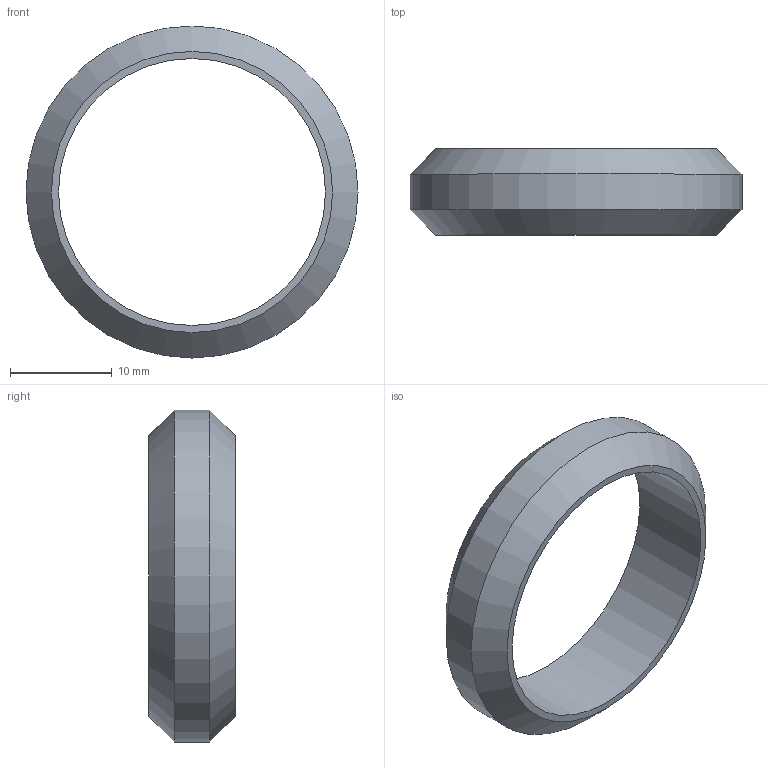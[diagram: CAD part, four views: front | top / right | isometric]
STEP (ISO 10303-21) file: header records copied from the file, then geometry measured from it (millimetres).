
FILE_DESCRIPTION(/* description */ (''),/* implementation_level */ '2;1');
FILE_NAME(/* name */ 'D:\_Vault\Workspace\Projektordner\3-Sensoren\02-STS\12-PSENmlock Zubehör\03-Kundendaten/2027571_A_PSEN_ml_actuator_center_ring.stp',/* time_stamp */ '2019-02-04T15:15:29+01:00',/* author */ ('prim'),/* organization */ (''),/* preprocessor_version */ 'ST-DEVELOPER v17.2',/* originating_system */ 'Autodesk Inventor 2019',/* authorisation */ '');
FILE_SCHEMA (('AUTOMOTIVE_DESIGN { 1 0 10303 214 3 1 1 }'));
Length unit declared in the file: millimetre
Products named in the file (1): 2027571
Bounding box: 32.7 x 8.5 x 32.7 mm (x, y, z)
Volume: 1911.5 mm3; surface area: 1851.5 mm2
Topology: 1 solids, 1 shells, 6 faces, 14 edges, 10 vertices
Faces by surface type: cone 2, cylinder 2, plane 2
Full cylindrical faces by diameter (mm): 26.3 x1, 32.7 x1
Entity records: 229 total; most frequent: DIRECTION 38, CARTESIAN_POINT 31, ORIENTED_EDGE 28, AXIS2_PLACEMENT_3D 17, EDGE_CURVE 14, CIRCLE 10, VERTEX_POINT 10, EDGE_LOOP 8
